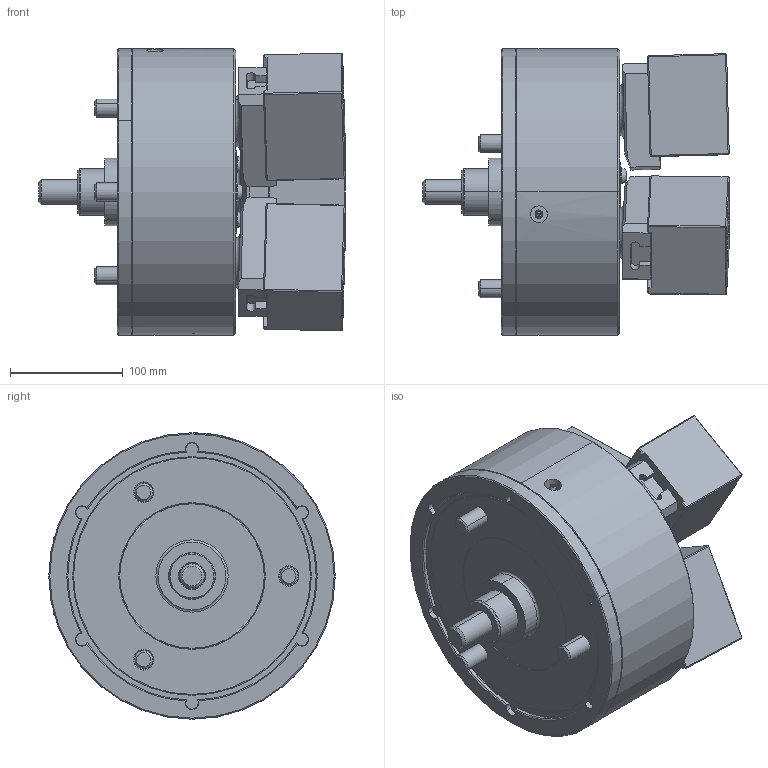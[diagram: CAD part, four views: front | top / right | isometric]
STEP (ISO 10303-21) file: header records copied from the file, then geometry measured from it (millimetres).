
FILE_DESCRIPTION (( 'STEP AP214' ), '1' );
FILE_NAME ('PW-10_OC_ID.STEP', '2025-08-18T06:48:34', ( '' ), ( '' ), 'SwSTEP 2.0', 'SolidWorks 2022', '' );
FILE_SCHEMA (( 'AUTOMOTIVE_DESIGN' ));
Length unit declared in the file: millimetre
Products named in the file (6): 61P322899; 結合_ID; 61P420193; PW-10_OC_ID; 0030116105; 0030116025
Assembly tree (16 placements, depth 2):
  PW-10_OC_ID
    61P322899  x3
    61P420193  x3
    0030116105  x3
    0030116025  x6
    結合_ID
Bounding box: 271.64 x 254 x 254 mm (x, y, z)
Volume: 6682179.4 mm3; surface area: 499016.2 mm2
Topology: 16 solids, 19 shells, 1539 faces, 3894 edges, 2497 vertices
Faces by surface type: plane 754, cone 307, cylinder 245, bspline 189, torus 42, sphere 2
Entity records: 47375 total; most frequent: CARTESIAN_POINT 17836, ORIENTED_EDGE 6464, DIRECTION 5317, EDGE_CURVE 3232, VERTEX_POINT 2084, AXIS2_PLACEMENT_3D 1775, LINE 1767, VECTOR 1767
